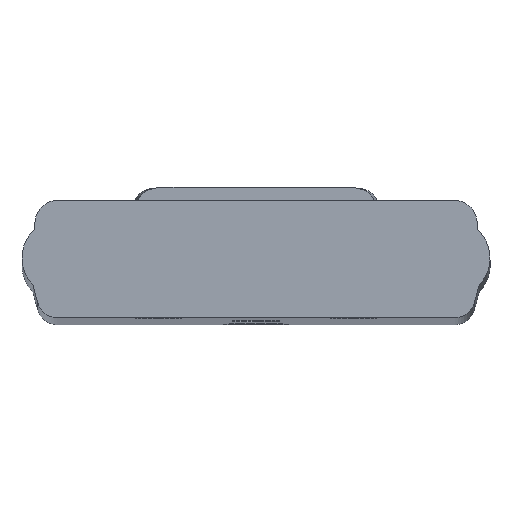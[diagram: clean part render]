
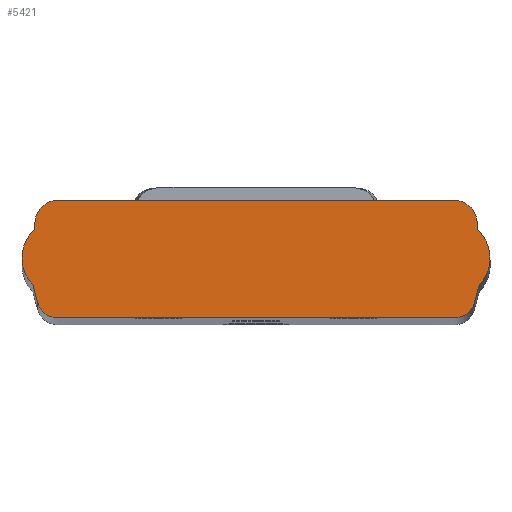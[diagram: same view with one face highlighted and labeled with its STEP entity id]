
A CAD part, top view. The second image highlights one B-rep face of the part: STEP entity #5421.
In plain terms, the highlighted planar face has unit normal (0, 0, 1).
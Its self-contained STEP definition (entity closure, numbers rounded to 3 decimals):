
#122 = EDGE_LOOP ( 'NONE', ( #623, #624, #625, #626, #627, #628, #629, #630, #631, #632, #633, #634, #635, #636, #637, #638, #639 ) ) ;
#623 = ORIENTED_EDGE ( 'NONE', *, *, #1027, .T. ) ;
#624 = ORIENTED_EDGE ( 'NONE', *, *, #1075, .T. ) ;
#625 = ORIENTED_EDGE ( 'NONE', *, *, #1031, .T. ) ;
#626 = ORIENTED_EDGE ( 'NONE', *, *, #1001, .T. ) ;
#627 = ORIENTED_EDGE ( 'NONE', *, *, #1092, .T. ) ;
#628 = ORIENTED_EDGE ( 'NONE', *, *, #1049, .T. ) ;
#629 = ORIENTED_EDGE ( 'NONE', *, *, #1032, .T. ) ;
#630 = ORIENTED_EDGE ( 'NONE', *, *, #1022, .T. ) ;
#631 = ORIENTED_EDGE ( 'NONE', *, *, #1033, .T. ) ;
#632 = ORIENTED_EDGE ( 'NONE', *, *, #986, .T. ) ;
#633 = ORIENTED_EDGE ( 'NONE', *, *, #1067, .T. ) ;
#634 = ORIENTED_EDGE ( 'NONE', *, *, #1064, .T. ) ;
#635 = ORIENTED_EDGE ( 'NONE', *, *, #1004, .T. ) ;
#636 = ORIENTED_EDGE ( 'NONE', *, *, #1035, .T. ) ;
#637 = ORIENTED_EDGE ( 'NONE', *, *, #1003, .T. ) ;
#638 = ORIENTED_EDGE ( 'NONE', *, *, #1063, .T. ) ;
#639 = ORIENTED_EDGE ( 'NONE', *, *, #1047, .T. ) ;
#986 = EDGE_CURVE ( 'NONE', #3112, #3393, #4280, .T. ) ;
#1001 = EDGE_CURVE ( 'NONE', #3447, #3441, #4305, .T. ) ;
#1003 = EDGE_CURVE ( 'NONE', #3084, #3320, #4309, .T. ) ;
#1004 = EDGE_CURVE ( 'NONE', #3283, #3486, #4311, .T. ) ;
#1022 = EDGE_CURVE ( 'NONE', #3397, #3101, #4339, .T. ) ;
#1027 = EDGE_CURVE ( 'NONE', #3115, #3110, #4348, .T. ) ;
#1031 = EDGE_CURVE ( 'NONE', #3489, #3447, #4352, .T. ) ;
#1032 = EDGE_CURVE ( 'NONE', #3301, #3397, #4353, .T. ) ;
#1033 = EDGE_CURVE ( 'NONE', #3101, #3112, #4354, .T. ) ;
#1035 = EDGE_CURVE ( 'NONE', #3486, #3084, #4350, .T. ) ;
#1047 = EDGE_CURVE ( 'NONE', #3282, #3115, #4376, .T. ) ;
#1049 = EDGE_CURVE ( 'NONE', #3426, #3301, #4377, .T. ) ;
#1063 = EDGE_CURVE ( 'NONE', #3320, #3282, #4401, .T. ) ;
#1064 = EDGE_CURVE ( 'NONE', #3356, #3283, #4402, .T. ) ;
#1067 = EDGE_CURVE ( 'NONE', #3393, #3356, #4404, .T. ) ;
#1075 = EDGE_CURVE ( 'NONE', #3110, #3489, #4416, .T. ) ;
#1092 = EDGE_CURVE ( 'NONE', #3441, #3426, #4442, .T. ) ;
#1196 = AXIS2_PLACEMENT_3D ( 'NONE', #5285, #5288, #5071 ) ;
#1399 = DIRECTION ( 'NONE',  ( 1., 0., 0. ) ) ;
#1400 = DIRECTION ( 'NONE',  ( 0., 0., -1. ) ) ;
#1404 = DIRECTION ( 'NONE',  ( -1., 0., 0. ) ) ;
#1406 = CARTESIAN_POINT ( 'NONE',  ( 19.336, -3.278, 393.5 ) ) ;
#1407 = DIRECTION ( 'NONE',  ( 0., 0., 1. ) ) ;
#1432 = CARTESIAN_POINT ( 'NONE',  ( -19.336, -5.278, 393.5 ) ) ;
#1458 = CARTESIAN_POINT ( 'NONE',  ( 19.01, 0.53, 393.5 ) ) ;
#1459 = DIRECTION ( 'NONE',  ( 0., 0., 1. ) ) ;
#1468 = DIRECTION ( 'NONE',  ( 1., 0., 0. ) ) ;
#1475 = CARTESIAN_POINT ( 'NONE',  ( 22.127, -2.33, 393.5 ) ) ;
#1476 = DIRECTION ( 'NONE',  ( 1., 0., 0. ) ) ;
#1479 = DIRECTION ( 'NONE',  ( 0., 0., -1. ) ) ;
#1487 = DIRECTION ( 'NONE',  ( 0., -1., 0. ) ) ;
#1496 = DIRECTION ( 'NONE',  ( 0.259, 0.966, 0. ) ) ;
#1505 = CARTESIAN_POINT ( 'NONE',  ( -21.53, 3.542, 393.5 ) ) ;
#1511 = CARTESIAN_POINT ( 'NONE',  ( 21.268, -3.795, 393.5 ) ) ;
#1526 = DIRECTION ( 'NONE',  ( 0., 0., -1. ) ) ;
#1528 = CARTESIAN_POINT ( 'NONE',  ( 21.98, 3.542, 393.5 ) ) ;
#1537 = DIRECTION ( 'NONE',  ( 1., 0., 0. ) ) ;
#1558 = DIRECTION ( 'NONE',  ( 0., 0., 1. ) ) ;
#1559 = DIRECTION ( 'NONE',  ( 1., 0., 0. ) ) ;
#1568 = CARTESIAN_POINT ( 'NONE',  ( -19.336, -3.278, 393.5 ) ) ;
#1573 = DIRECTION ( 'NONE',  ( 1., 0., 0. ) ) ;
#1621 = CARTESIAN_POINT ( 'NONE',  ( -22.127, -2.33, 393.5 ) ) ;
#1631 = DIRECTION ( 'NONE',  ( 1., 0., 0. ) ) ;
#1663 = DIRECTION ( 'NONE',  ( 1., 0., 0. ) ) ;
#1678 = CARTESIAN_POINT ( 'NONE',  ( -19.01, 0.53, 393.5 ) ) ;
#1692 = DIRECTION ( 'NONE',  ( 0., 0., 1. ) ) ;
#1697 = DIRECTION ( 'NONE',  ( 0.259, -0.966, 0. ) ) ;
#1705 = CARTESIAN_POINT ( 'NONE',  ( -19.35, 3.942, 393.5 ) ) ;
#1711 = CARTESIAN_POINT ( 'NONE',  ( -21.268, -3.795, 393.5 ) ) ;
#1722 = DIRECTION ( 'NONE',  ( 0., 0., 1. ) ) ;
#1731 = CARTESIAN_POINT ( 'NONE',  ( 19.35, 3.942, 393.5 ) ) ;
#1733 = DIRECTION ( 'NONE',  ( 1., 0., 0. ) ) ;
#1751 = DIRECTION ( 'NONE',  ( 0., 0., 1. ) ) ;
#1765 = DIRECTION ( 'NONE',  ( 0., 1., 0. ) ) ;
#1782 = CARTESIAN_POINT ( 'NONE',  ( 21.53, 3.542, 393.5 ) ) ;
#1801 = DIRECTION ( 'NONE',  ( 0., 0., 1. ) ) ;
#1809 = CARTESIAN_POINT ( 'NONE',  ( -19.01, 0.53, 393.5 ) ) ;
#1816 = DIRECTION ( 'NONE',  ( 1., 0., 0. ) ) ;
#2309 = DIRECTION ( 'NONE',  ( 0., 0., -1. ) ) ;
#2321 = CARTESIAN_POINT ( 'NONE',  ( -21.98, 3.542, 393.5 ) ) ;
#2363 = CARTESIAN_POINT ( 'NONE',  ( 21.795, -2.026, 393.5 ) ) ;
#2429 = CARTESIAN_POINT ( 'NONE',  ( -21.268, -3.795, 393.5 ) ) ;
#2430 = CARTESIAN_POINT ( 'NONE',  ( -21.692, -2.213, 393.5 ) ) ;
#2434 = CARTESIAN_POINT ( 'NONE',  ( 19.5, 6.117, 393.5 ) ) ;
#2501 = CARTESIAN_POINT ( 'NONE',  ( 21.53, 3.942, 393.5 ) ) ;
#2588 = DIRECTION ( 'NONE',  ( -1., 0., 0. ) ) ;
#2589 = CARTESIAN_POINT ( 'NONE',  ( -19.5, 6.117, 393.5 ) ) ;
#2644 = DIRECTION ( 'NONE',  ( 1., 0., 0. ) ) ;
#2706 = CARTESIAN_POINT ( 'NONE',  ( -19.5, 6.117, 393.5 ) ) ;
#2728 = CARTESIAN_POINT ( 'NONE',  ( -21.795, -2.026, 393.5 ) ) ;
#2769 = CARTESIAN_POINT ( 'NONE',  ( -21.53, 3.542, 393.5 ) ) ;
#2813 = CARTESIAN_POINT ( 'NONE',  ( -19.336, -5.278, 393.5 ) ) ;
#2822 = CARTESIAN_POINT ( 'NONE',  ( 21.268, -3.795, 393.5 ) ) ;
#2829 = CARTESIAN_POINT ( 'NONE',  ( 21.53, 3.542, 393.5 ) ) ;
#2856 = CARTESIAN_POINT ( 'NONE',  ( 19.336, -5.278, 393.5 ) ) ;
#2890 = CARTESIAN_POINT ( 'NONE',  ( -21.53, 3.942, 393.5 ) ) ;
#2896 = CARTESIAN_POINT ( 'NONE',  ( 21.692, -2.213, 393.5 ) ) ;
#2909 = CARTESIAN_POINT ( 'NONE',  ( 21.664, 3.222, 393.5 ) ) ;
#2910 = CARTESIAN_POINT ( 'NONE',  ( -22.79, 0.53, 393.5 ) ) ;
#3009 = CARTESIAN_POINT ( 'NONE',  ( -21.664, 3.222, 393.5 ) ) ;
#3084 = VERTEX_POINT ( 'NONE', #2363 ) ;
#3101 = VERTEX_POINT ( 'NONE', #2430 ) ;
#3110 = VERTEX_POINT ( 'NONE', #2434 ) ;
#3112 = VERTEX_POINT ( 'NONE', #2429 ) ;
#3115 = VERTEX_POINT ( 'NONE', #2501 ) ;
#3282 = VERTEX_POINT ( 'NONE', #2829 ) ;
#3283 = VERTEX_POINT ( 'NONE', #2822 ) ;
#3301 = VERTEX_POINT ( 'NONE', #2910 ) ;
#3320 = VERTEX_POINT ( 'NONE', #2909 ) ;
#3356 = VERTEX_POINT ( 'NONE', #2856 ) ;
#3393 = VERTEX_POINT ( 'NONE', #2813 ) ;
#3397 = VERTEX_POINT ( 'NONE', #2728 ) ;
#3426 = VERTEX_POINT ( 'NONE', #3009 ) ;
#3441 = VERTEX_POINT ( 'NONE', #2769 ) ;
#3447 = VERTEX_POINT ( 'NONE', #2890 ) ;
#3486 = VERTEX_POINT ( 'NONE', #2896 ) ;
#3489 = VERTEX_POINT ( 'NONE', #2706 ) ;
#4280 = CIRCLE ( 'NONE', #6051, 2. ) ;
#4305 = LINE ( 'NONE', #1505, #4308 ) ;
#4308 = VECTOR ( 'NONE', #1487, 1000. ) ;
#4309 = CIRCLE ( 'NONE', #6081, 3.78 ) ;
#4311 = LINE ( 'NONE', #1511, #4313 ) ;
#4313 = VECTOR ( 'NONE', #1496, 1000. ) ;
#4339 = CIRCLE ( 'NONE', #6059, 0.45 ) ;
#4348 = CIRCLE ( 'NONE', #6138, 2.18 ) ;
#4350 = CIRCLE ( 'NONE', #6020, 0.45 ) ;
#4352 = CIRCLE ( 'NONE', #5990, 2.18 ) ;
#4353 = CIRCLE ( 'NONE', #6034, 3.78 ) ;
#4354 = LINE ( 'NONE', #1711, #4356 ) ;
#4356 = VECTOR ( 'NONE', #1697, 1000. ) ;
#4376 = LINE ( 'NONE', #1782, #4380 ) ;
#4377 = CIRCLE ( 'NONE', #6075, 3.78 ) ;
#4380 = VECTOR ( 'NONE', #1765, 1000. ) ;
#4401 = CIRCLE ( 'NONE', #6140, 0.45 ) ;
#4402 = CIRCLE ( 'NONE', #6019, 2. ) ;
#4404 = LINE ( 'NONE', #1432, #4408 ) ;
#4408 = VECTOR ( 'NONE', #1631, 1000. ) ;
#4416 = LINE ( 'NONE', #2589, #4418 ) ;
#4418 = VECTOR ( 'NONE', #2588, 1000. ) ;
#4442 = CIRCLE ( 'NONE', #6149, 0.45 ) ;
#4623 = FACE_OUTER_BOUND ( 'NONE', #122, .T. ) ;
#5071 = DIRECTION ( 'NONE',  ( -1., 0., 0. ) ) ;
#5098 = PLANE ( 'NONE',  #1196 ) ;
#5285 = CARTESIAN_POINT ( 'NONE',  ( 19.336, -3.278, 393.5 ) ) ;
#5288 = DIRECTION ( 'NONE',  ( 0., 0., -1. ) ) ;
#5421 = ADVANCED_FACE ( 'NONE', ( #4623 ), #5098, .F. ) ;
#5990 = AXIS2_PLACEMENT_3D ( 'NONE', #1705, #1751, #1733 ) ;
#6019 = AXIS2_PLACEMENT_3D ( 'NONE', #1406, #1407, #1404 ) ;
#6020 = AXIS2_PLACEMENT_3D ( 'NONE', #1475, #1479, #1468 ) ;
#6034 = AXIS2_PLACEMENT_3D ( 'NONE', #1678, #1692, #1663 ) ;
#6051 = AXIS2_PLACEMENT_3D ( 'NONE', #1568, #1558, #1559 ) ;
#6059 = AXIS2_PLACEMENT_3D ( 'NONE', #1621, #1400, #1399 ) ;
#6075 = AXIS2_PLACEMENT_3D ( 'NONE', #1809, #1801, #1816 ) ;
#6081 = AXIS2_PLACEMENT_3D ( 'NONE', #1458, #1459, #1476 ) ;
#6138 = AXIS2_PLACEMENT_3D ( 'NONE', #1731, #1722, #1573 ) ;
#6140 = AXIS2_PLACEMENT_3D ( 'NONE', #1528, #1526, #1537 ) ;
#6149 = AXIS2_PLACEMENT_3D ( 'NONE', #2321, #2309, #2644 ) ;
